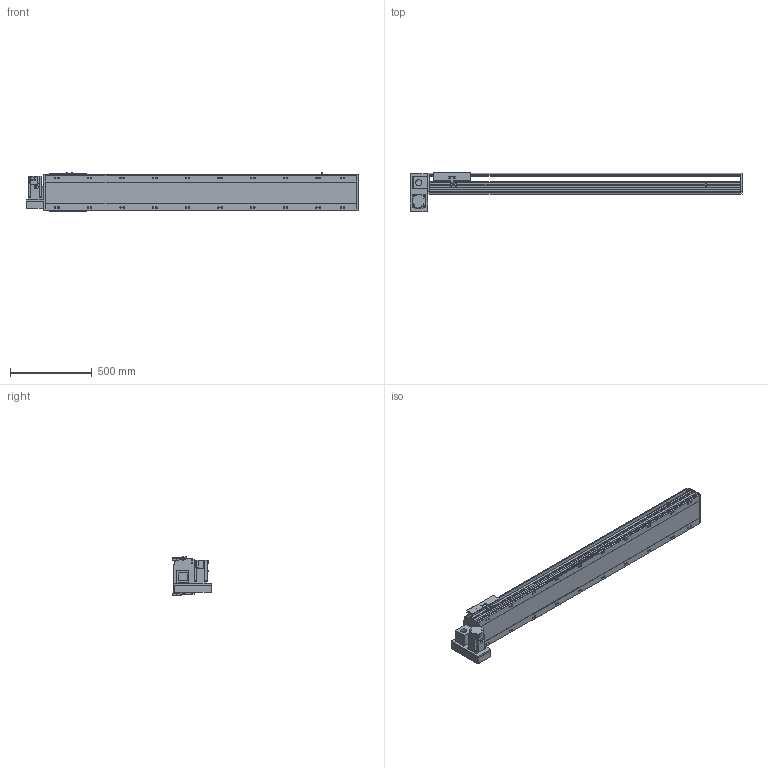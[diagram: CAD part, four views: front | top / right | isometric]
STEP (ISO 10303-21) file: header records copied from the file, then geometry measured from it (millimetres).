
FILE_DESCRIPTION(/* description */ ('STEP AP214'),/* implementation_level */ '2;1');
FILE_NAME(/* name */ 'PBS220-P40-S1550-LD-T75-C1-N(0)',/* time_stamp */ '2022-06-27T09:44:46+02:00',/* author */ ('License CC BY-ND 4.0'),/* organization */ ('CADENAS'),/* preprocessor_version */ 'ST-DEVELOPER v18.102',/* originating_system */ 'PARTsolutions',/* authorisation */ ' ');
FILE_SCHEMA (('AUTOMOTIVE_DESIGN {1 0 10303 214 3 1 1}'));
Length unit declared in the file: millimetre
Products named in the file (7): PBS220-P40-S1550-LD-T75-C1-N(0); PBS220_sensor; PBS220_plant; PBS220_sliser; T75-p1; PBS220T-LD_motors; PBS220-S1550()_body
Assembly tree (8 placements, depth 2):
  PBS220-P40-S1550-LD-T75-C1-N(0)
    PBS220_sensor  x3
    PBS220_plant
    PBS220_sliser
    T75-p1
    PBS220T-LD_motors
    PBS220-S1550()_body
Bounding box: 2034 x 239 x 238.5 mm (x, y, z)
Volume: 28865772.2 mm3; surface area: 2730220.9 mm2
Topology: 8 solids, 8 shells, 938 faces, 2452 edges, 1594 vertices
Faces by surface type: plane 606, cylinder 288, cone 44
Full cylindrical faces by diameter (mm): 2.013 x4, 4.5 x14, 4.917 x4, 6 x7, 6.647 x8, 8 x10, 8.376 x20, 8.5 x20, 10 x6, 14 x20, 38 x2, 40 x1, 70 x1
Entity records: 26252 total; most frequent: CARTESIAN_POINT 4624, DIRECTION 4563, ORIENTED_EDGE 4178, EDGE_CURVE 2089, AXIS2_PLACEMENT_3D 1607, VERTEX_POINT 1448, LINE 1349, VECTOR 1349
